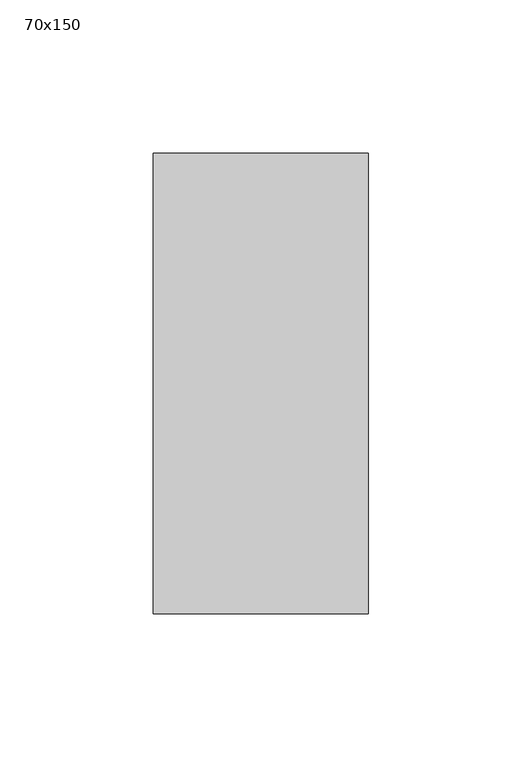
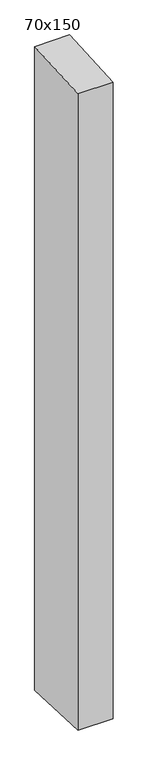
"""IFC4 building model written with IfcOpenShell, lengths in millimetres: member geometry, 長方形のマリオン : 70x150."""

from ifc_helpers import new_model, si_unit, frame, origin, place, context, project, spatial, polyline, outline, extrude, source, transform, mapped, element, save


def member_70x150_542da0a8(model_context):
    return source(origin(), model_context, "Body", "SweptSolid", [
        extrude(outline(polyline([(-75.0, -4.2711403), (75.0, 4.2711403), (75.0, -1354.2423423), (-75.0, -1348.1718398), (-75.0, -4.2711403)])), frame((-35.0, 0.0, 0.0), z_axis=(1.0, 0.0, 0.0), x_axis=(0.0, 1.0, 0.0)), (0.0, 0.0, 1.0), 70.0),
    ])


if __name__ == "__main__":
    model = new_model("IFC4")
    model_context = context("Model", 3, world=origin())
    ifc_project = project(units=[si_unit("LENGTHUNIT", "METRE", prefix="MILLI")], contexts=[model_context])
    site = spatial("IfcSite", under=ifc_project)
    building = spatial("IfcBuilding", under=site)
    placement = place(None, origin())
    member_70x150_shape = member_70x150_542da0a8(model_context)
    element("IfcMember", 1, ObjectType="長方形のマリオン : 70x150", at=placement, inside=building, context=model_context, shape_type="MappedRepresentation", body=[
        mapped(member_70x150_shape, transform((0.0, 0.0, 0.0), x_axis=(1.0, 0.0, 0.0), y_axis=(0.0, 1.0, 0.0), z_axis=(0.0, 0.0, 1.0))),
    ])
    save(model, "model.ifc")
